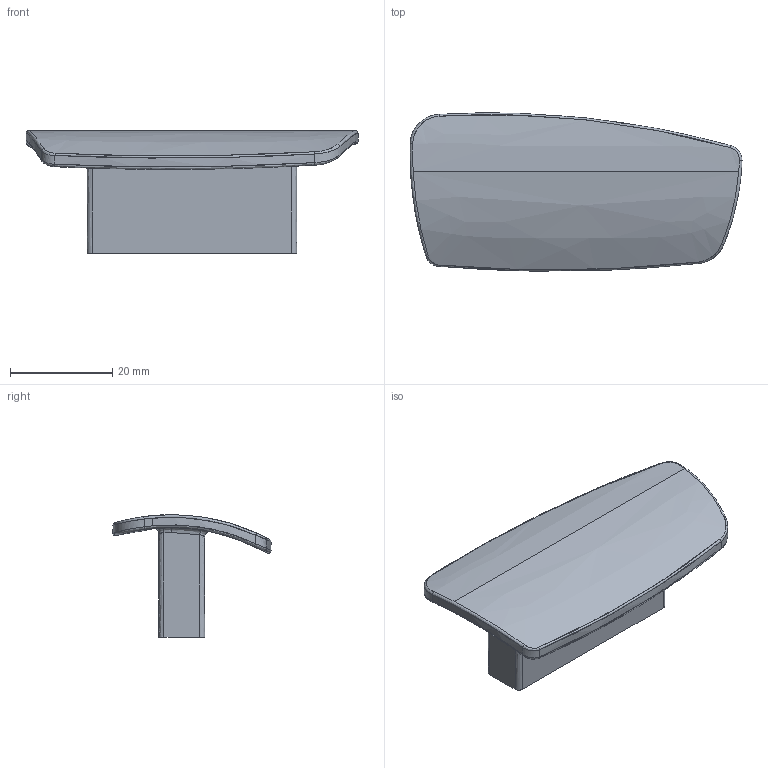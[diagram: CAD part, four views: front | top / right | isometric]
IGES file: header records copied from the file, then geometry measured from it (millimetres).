
Start section: C
Global section: file name: 8189-65.igs; native system: By Siemens PLM Incorporated; preprocessor: XPlus GENERIC/IGES 16.0.42; author: Author; organization: Title; date: 20231119.092058; units: millimetre
Bounding box: 64.97 x 30.96 x 24 mm (x, y, z)
Surface area: 7880 mm2 (no closed solid volume)
Topology: 0 solids, 0 shells, 74 faces, 364 edges, 364 vertices
Faces by surface type: bspline 74
